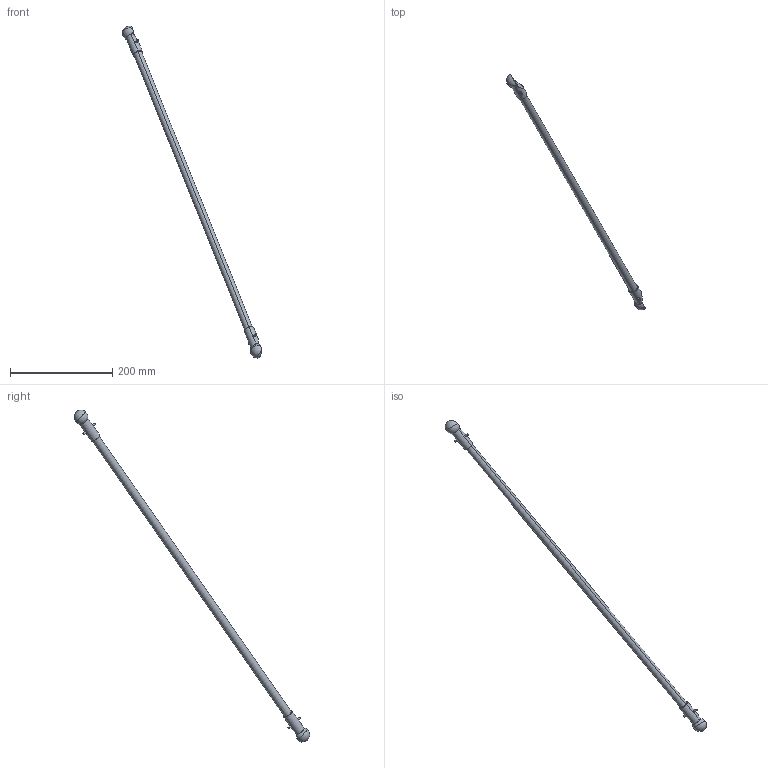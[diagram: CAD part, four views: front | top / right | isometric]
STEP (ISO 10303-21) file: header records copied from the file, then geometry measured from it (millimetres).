
FILE_DESCRIPTION (( 'STEP AP214' ), '1' );
FILE_NAME ('IRB360_8-1130-STD-4D_rev03_LA3_2_CAD.STEP', '2025-05-19T13:33:14', ( '' ), ( '' ), 'SwSTEP 2.0', 'SolidWorks 2022', '' );
FILE_SCHEMA (( 'AUTOMOTIVE_DESIGN' ));
Length unit declared in the file: millimetre
Products named in the file (1): IRB360_8-1130-STD-4D_rev03_LA3_2_CAD
Bounding box: 272.74 x 461.19 x 650.87 mm (x, y, z)
Volume: 172342.4 mm3; surface area: 44609 mm2
Topology: 1 solids, 1 shells, 39 faces, 100 edges, 65 vertices
Faces by surface type: cylinder 16, sphere 13, plane 10
Entity records: 1530 total; most frequent: CARTESIAN_POINT 443, DIRECTION 198, ORIENTED_EDGE 182, EDGE_CURVE 91, AXIS2_PLACEMENT_3D 89, VERTEX_POINT 60, CIRCLE 49, EDGE_LOOP 45
